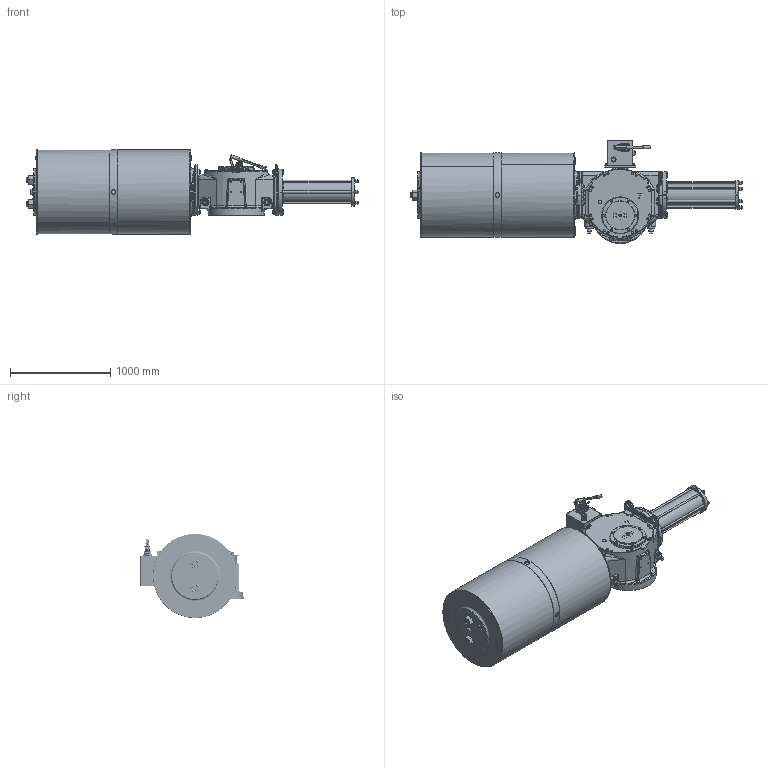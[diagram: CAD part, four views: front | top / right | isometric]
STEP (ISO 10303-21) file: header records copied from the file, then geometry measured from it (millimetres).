
FILE_DESCRIPTION (( 'STEP AP203' ), '1' );
FILE_NAME ('R780D-MH.STEP', '2022-08-03T01:24:13', ( '微软用户' ), ( '微软中国' ), 'SwSTEP 2.0', 'SolidWorks 2020', '' );
FILE_SCHEMA (( 'CONFIG_CONTROL_DESIGN' ));
Length unit declared in the file: millimetre
Products named in the file (1): R780D-MH
Bounding box: 3308 x 1027 x 839 mm (x, y, z)
Volume: 1082985721.1 mm3; surface area: 10839705.8 mm2
Topology: 13 solids, 19 shells, 4154 faces, 10273 edges, 6329 vertices
Faces by surface type: plane 1503, cylinder 1378, cone 871, bspline 364, torus 38
Entity records: 153570 total; most frequent: CARTESIAN_POINT 57412, ORIENTED_EDGE 20218, DIRECTION 20181, EDGE_CURVE 10109, AXIS2_PLACEMENT_3D 8054, VERTEX_POINT 6329, EDGE_LOOP 4612, CIRCLE 4263
